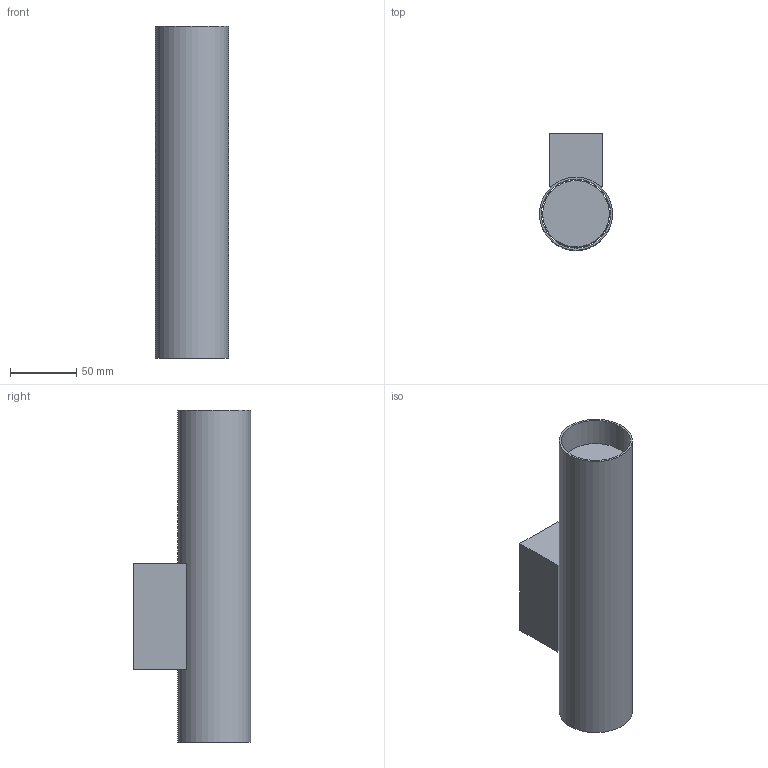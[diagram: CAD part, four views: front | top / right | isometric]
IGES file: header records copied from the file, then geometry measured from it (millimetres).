
Start section: SolidWorks IGES file using analytic representation for surfaces
Global section: file name: X:\PRODUKT\Modele 3D_WWW\_KOLEKCJE WWW\EYE-WALL\EYE-WALL-II-8073-8072-8074\EYE-WALL-II-8073-8072-8074.IGS; native system: SolidWorks 2021; preprocessor: SolidWorks 2021; author: gabriela.tworek; date: 221123.081236; units: millimetre
Bounding box: 55 x 88.29 x 250 mm (x, y, z)
Surface area: 109173 mm2 (no closed solid volume)
Topology: 0 solids, 0 shells, 18 faces, 56 edges, 52 vertices
Faces by surface type: bspline 13, revolution 5
